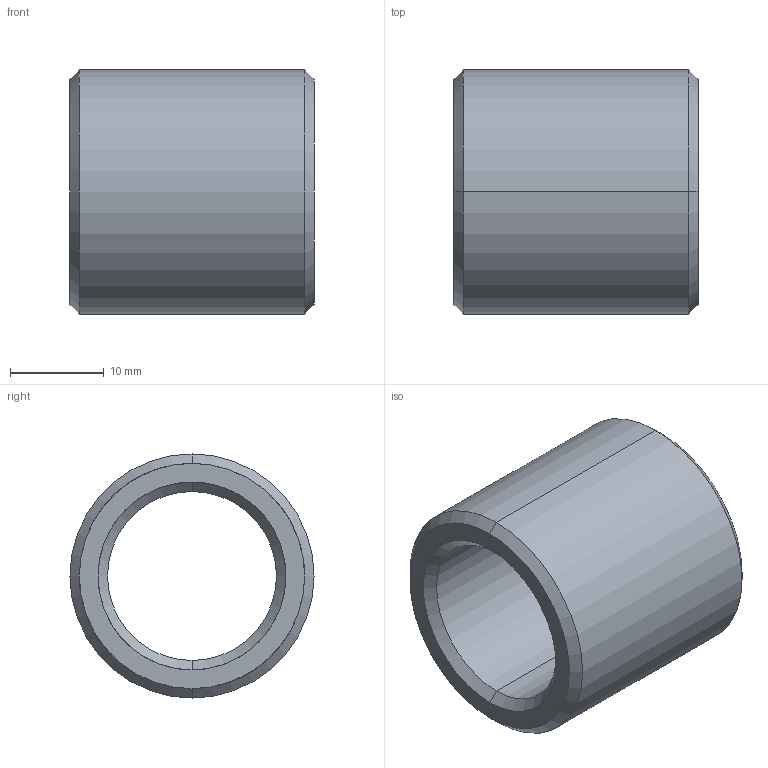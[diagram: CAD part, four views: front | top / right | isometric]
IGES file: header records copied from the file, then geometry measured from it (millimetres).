
Start section: START RECORD GO HERE.
Global section: file name: 352-18X26.igs; native system: DASSAULT SYSTEMES CATIA V5 R20 - www.3ds.com; preprocessor: CATIA Version 5 Release 20 ; author: Utente; organization: NB04-ASUS; date: 20210412.174200; units: millimetre
Bounding box: 26 x 26 x 26 mm (x, y, z)
Surface area: 3993 mm2 (no closed solid volume)
Topology: 0 solids, 0 shells, 14 faces, 88 edges, 88 vertices
Faces by surface type: revolution 12, plane 2
